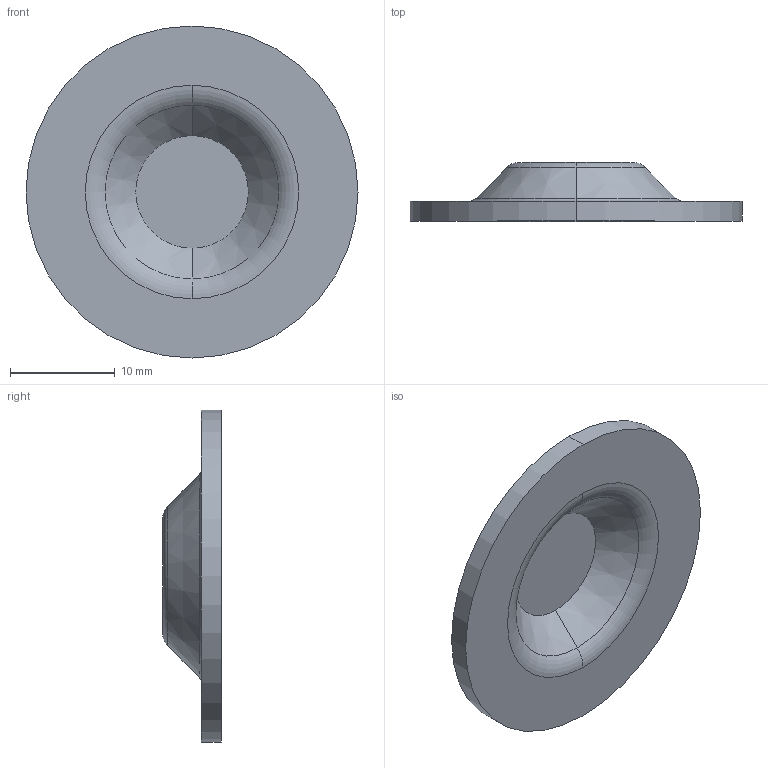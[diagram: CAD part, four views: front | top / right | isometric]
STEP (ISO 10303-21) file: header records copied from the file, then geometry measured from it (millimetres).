
FILE_DESCRIPTION (( 'STEP AP203' ), '1' );
FILE_NAME ('1845531-10.STEP', '2024-11-18T15:35:07', ( '' ), ( '' ), 'SwSTEP 2.0', 'SolidWorks 2024', '' );
FILE_SCHEMA (( 'CONFIG_CONTROL_DESIGN' ));
Length unit declared in the file: inch
Products named in the file (1): 1845531-10
Bounding box: 31.75 x 5.61 x 31.75 mm (x, y, z)
Volume: 1638.3 mm3; surface area: 1909.8 mm2
Topology: 1 solids, 1 shells, 16 faces, 30 edges, 18 vertices
Faces by surface type: torus 6, cone 4, plane 4, cylinder 2
Entity records: 489 total; most frequent: DIRECTION 88, CARTESIAN_POINT 65, ORIENTED_EDGE 60, AXIS2_PLACEMENT_3D 41, EDGE_CURVE 30, CIRCLE 24, EDGE_LOOP 18, VERTEX_POINT 18
